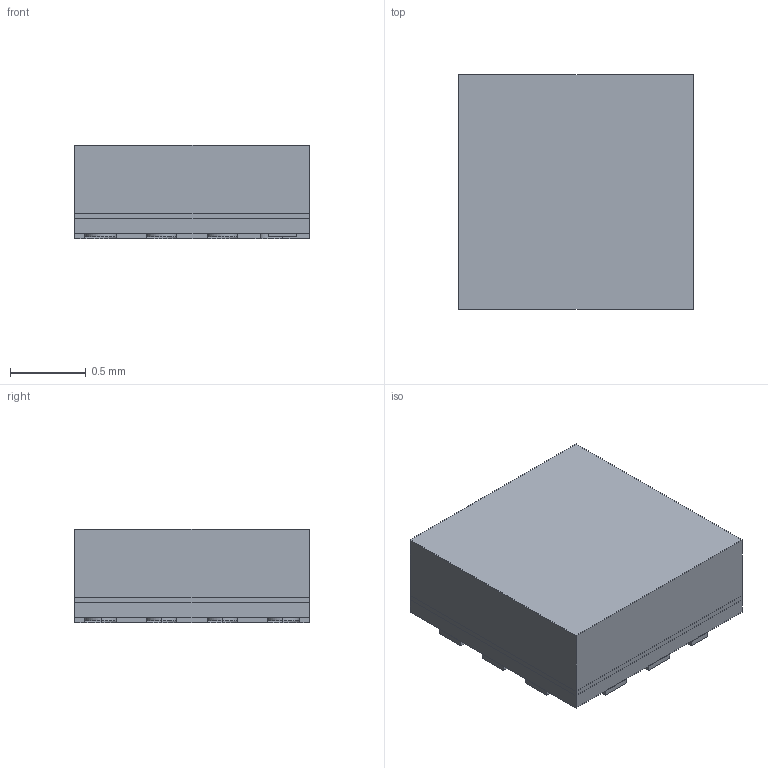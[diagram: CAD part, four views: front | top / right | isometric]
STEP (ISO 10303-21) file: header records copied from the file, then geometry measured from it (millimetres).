
FILE_DESCRIPTION (( 'STEP AP214' ), '1' );
FILE_NAME ('PKG_model_rev3.STEP', '2025-11-06T06:36:49', ( '' ), ( '' ), 'SwSTEP 2.0', 'SolidWorks 2023', '' );
FILE_SCHEMA (( 'AUTOMOTIVE_DESIGN' ));
Length unit declared in the file: millimetre
Products named in the file (3): PKG_model_rev3; interposer_ver3_sim_model; molding_v-shape_ver3_sim_model
Assembly tree (2 placements, depth 2):
  PKG_model_rev3
    interposer_ver3_sim_model
    molding_v-shape_ver3_sim_model
Bounding box: 1.55 x 1.55 x 0.62 mm (x, y, z)
Volume: 1.5 mm3; surface area: 22.2 mm2
Topology: 20 solids, 20 shells, 154 faces, 342 edges, 228 vertices
Faces by surface type: plane 92, cylinder 62
Entity records: 6261 total; most frequent: DIRECTION 784, CARTESIAN_POINT 729, ORIENTED_EDGE 684, EDGE_CURVE 342, AXIS2_PLACEMENT_3D 283, VERTEX_POINT 228, VECTOR 218, LINE 218
